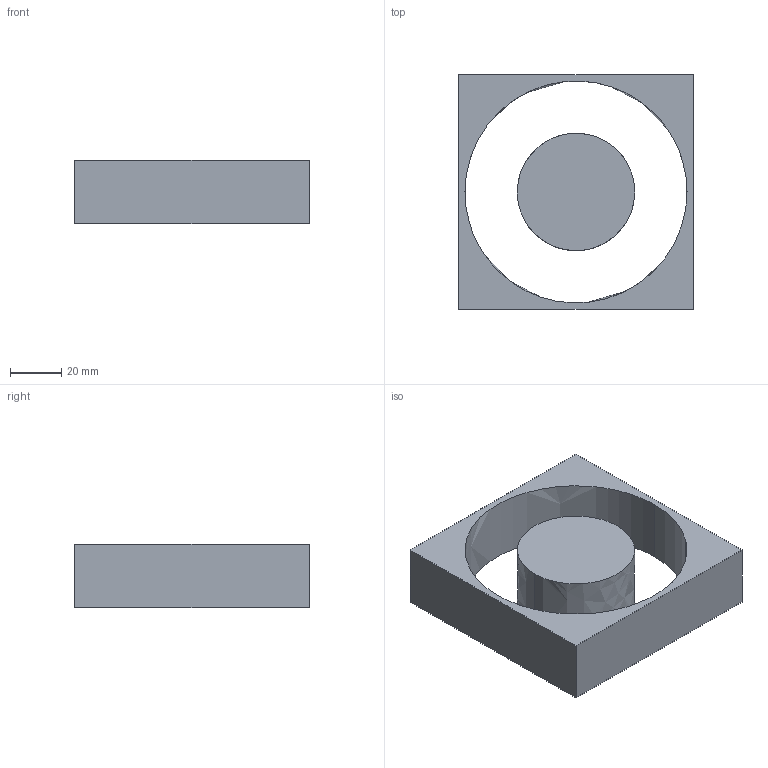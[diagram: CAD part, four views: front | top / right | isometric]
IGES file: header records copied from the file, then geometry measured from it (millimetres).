
Start section:  PTC IGES file: fan92.igs
Global section: file name: fan92.igs; native system: Pro/ENGINEER by Parametric Technology Corporation; preprocessor: 2010160; author: JE18792; organization: Unknown; date: 20121101.154102; units: millimetre
Bounding box: 92 x 92 x 25 mm (x, y, z)
Volume: 104530.7 mm3; surface area: 28008.2 mm2
Topology: 2 solids, 2 shells, 12 faces, 24 edges, 16 vertices
Faces by surface type: bspline 12
